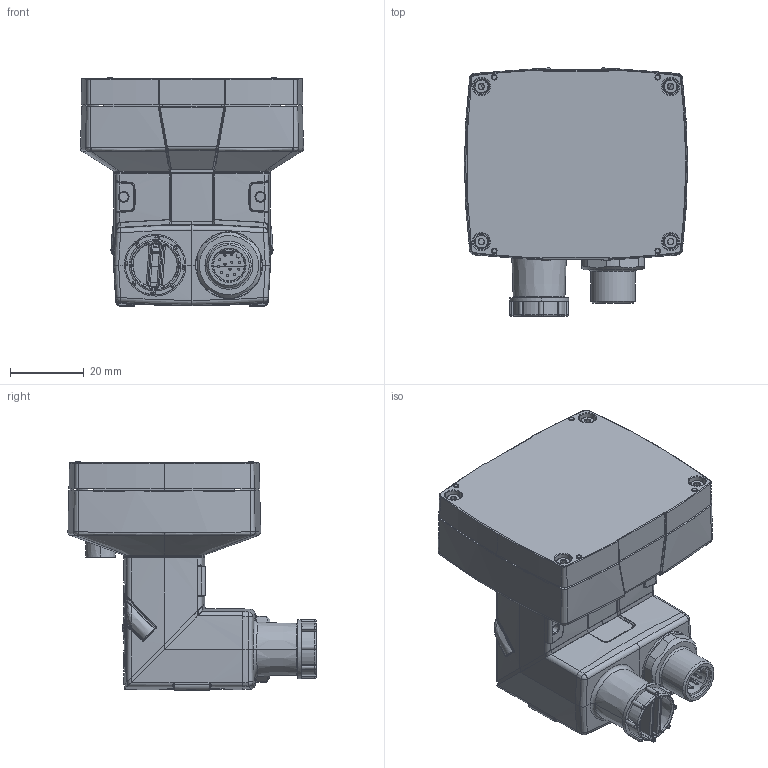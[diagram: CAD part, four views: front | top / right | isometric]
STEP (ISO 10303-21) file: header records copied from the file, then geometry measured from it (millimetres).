
FILE_DESCRIPTION (( 'STEP AP214' ), '1' );
FILE_NAME ('IS2000_RightAngle_Marketing.STEP', '2015-12-10T14:37:32', ( 'Cognoid' ), ( 'Microsoft' ), 'SwSTEP 2.0', 'SolidWorks 2014', '' );
FILE_SCHEMA (( 'AUTOMOTIVE_DESIGN' ));
Length unit declared in the file: millimetre
Products named in the file (1): IS2000_RightAngle_Marketing
Bounding box: 60.39 x 67.15 x 61.82 mm (x, y, z)
Surface area: 21603.9 mm2 (no closed solid volume)
Topology: 0 solids, 51 shells, 1078 faces, 3583 edges, 2472 vertices
Faces by surface type: bspline 430, cylinder 261, plane 204, cone 111, torus 68, sphere 4
Entity records: 66389 total; most frequent: CARTESIAN_POINT 28468, ORIENTED_EDGE 5786, DIRECTION 4063, EDGE_CURVE 3553, VERTEX_POINT 2472, AXIS2_PLACEMENT_3D 1550, B_SPLINE_CURVE_WITH_KNOTS 1500, EDGE_LOOP 1168
